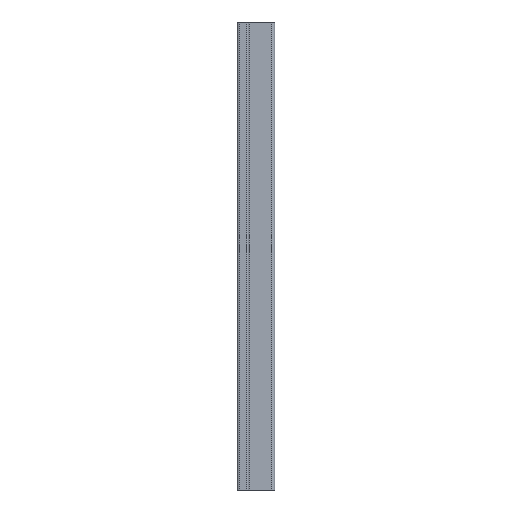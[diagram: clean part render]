
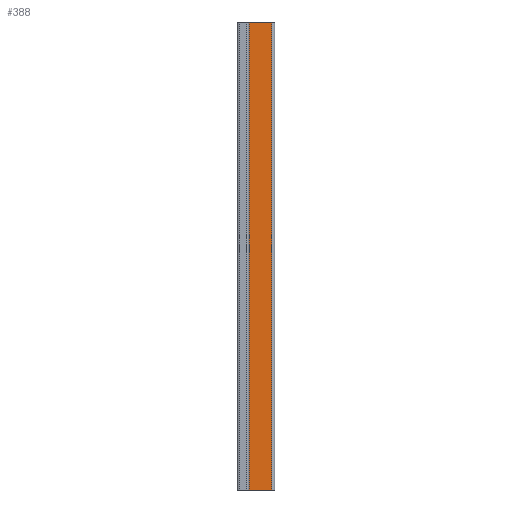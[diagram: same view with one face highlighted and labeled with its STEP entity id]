
A CAD part, left-side view. The second image highlights one B-rep face of the part: STEP entity #388.
In plain terms, the highlighted planar face has unit normal (-1, 0, 0).
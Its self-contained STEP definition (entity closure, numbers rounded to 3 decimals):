
#84 = CARTESIAN_POINT ( 'NONE',  ( -15., 12.252, -250. ) ) ;
#89 = VECTOR ( 'NONE', #200, 1000. ) ;
#103 = ORIENTED_EDGE ( 'NONE', *, *, #715, .T. ) ;
#200 = DIRECTION ( 'NONE',  ( 0., -1., 0. ) ) ;
#228 = CARTESIAN_POINT ( 'NONE',  ( -15., 12.252, -252.721 ) ) ;
#234 = ORIENTED_EDGE ( 'NONE', *, *, #472, .T. ) ;
#236 = CARTESIAN_POINT ( 'NONE',  ( -15., -12., 250. ) ) ;
#287 = VECTOR ( 'NONE', #1055, 1000. ) ;
#365 = LINE ( 'NONE', #445, #573 ) ;
#373 = VERTEX_POINT ( 'NONE', #585 ) ;
#388 = ADVANCED_FACE ( 'NONE', ( #686 ), #1134, .T. ) ;
#445 = CARTESIAN_POINT ( 'NONE',  ( -15., -12., -250. ) ) ;
#468 = DIRECTION ( 'NONE',  ( 0., -1., 0. ) ) ;
#472 = EDGE_CURVE ( 'NONE', #661, #373, #940, .T. ) ;
#546 = ORIENTED_EDGE ( 'NONE', *, *, #1097, .F. ) ;
#555 = VERTEX_POINT ( 'NONE', #236 ) ;
#567 = DIRECTION ( 'NONE',  ( 0., 0., 1. ) ) ;
#573 = VECTOR ( 'NONE', #1098, 1000. ) ;
#581 = LINE ( 'NONE', #228, #287 ) ;
#585 = CARTESIAN_POINT ( 'NONE',  ( -15., -12., -250. ) ) ;
#661 = VERTEX_POINT ( 'NONE', #84 ) ;
#680 = EDGE_CURVE ( 'NONE', #1122, #555, #1093, .T. ) ;
#686 = FACE_OUTER_BOUND ( 'NONE', #957, .T. ) ;
#715 = EDGE_CURVE ( 'NONE', #373, #555, #365, .T. ) ;
#763 = CARTESIAN_POINT ( 'NONE',  ( -15., -15., -250. ) ) ;
#774 = CARTESIAN_POINT ( 'NONE',  ( -15., -15., -250. ) ) ;
#893 = CARTESIAN_POINT ( 'NONE',  ( -15., 12.252, 250. ) ) ;
#938 = ORIENTED_EDGE ( 'NONE', *, *, #680, .F. ) ;
#940 = LINE ( 'NONE', #763, #1164 ) ;
#957 = EDGE_LOOP ( 'NONE', ( #546, #234, #103, #938 ) ) ;
#1006 = CARTESIAN_POINT ( 'NONE',  ( -15., -15., 250. ) ) ;
#1054 = DIRECTION ( 'NONE',  ( -1., 0., 0. ) ) ;
#1055 = DIRECTION ( 'NONE',  ( 0., 0., 1. ) ) ;
#1082 = AXIS2_PLACEMENT_3D ( 'NONE', #774, #1054, #567 ) ;
#1093 = LINE ( 'NONE', #1006, #89 ) ;
#1097 = EDGE_CURVE ( 'NONE', #661, #1122, #581, .T. ) ;
#1098 = DIRECTION ( 'NONE',  ( 0., 0., 1. ) ) ;
#1122 = VERTEX_POINT ( 'NONE', #893 ) ;
#1134 = PLANE ( 'NONE',  #1082 ) ;
#1164 = VECTOR ( 'NONE', #468, 1000. ) ;
